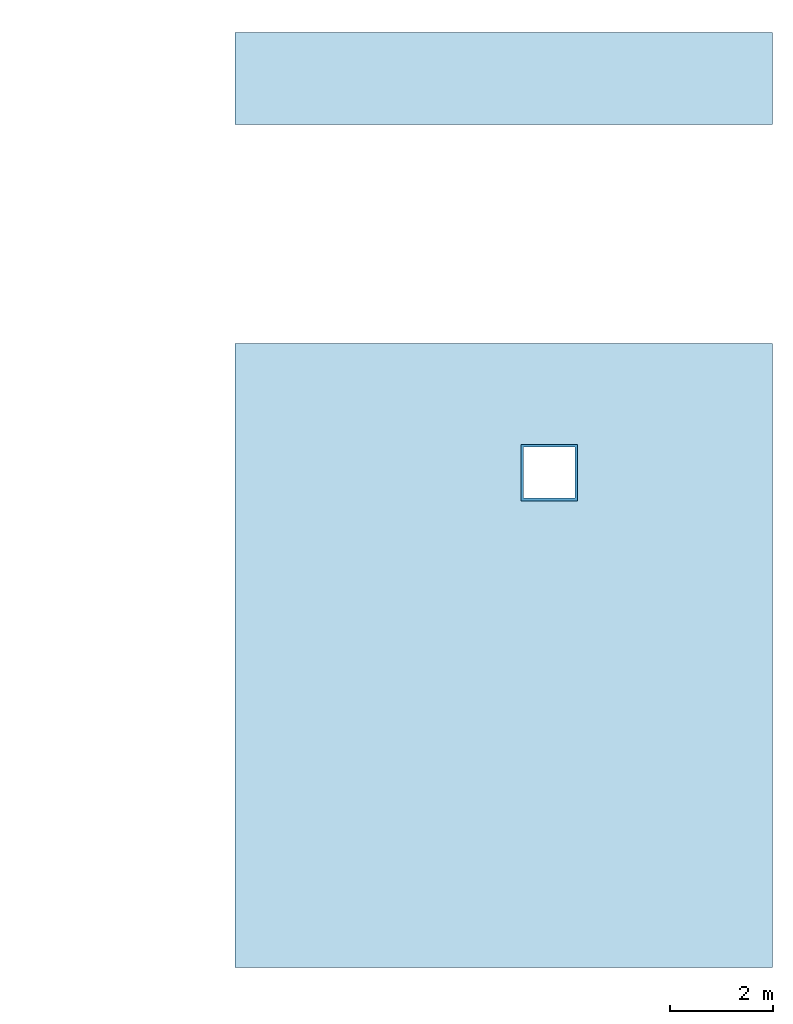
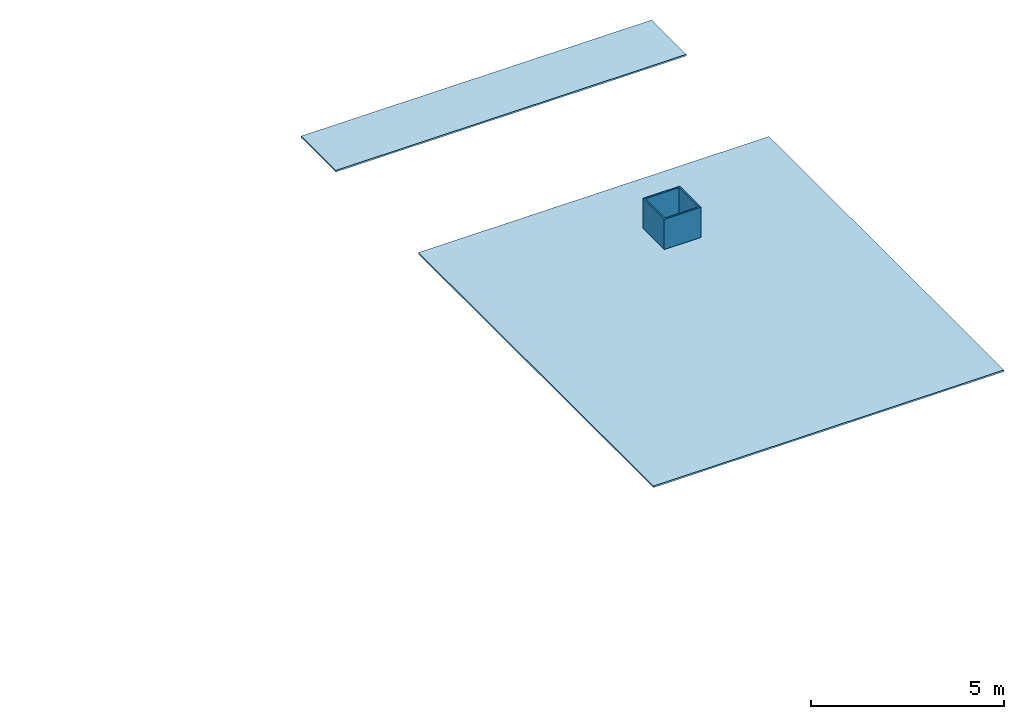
# One storey, part 2 of 8: 3 slabs, 2 openings.
"""IFC2X3 building model written with IfcOpenShell, lengths in metres."""

from ifc_helpers import new_model, entity, si_unit, converted_unit, derived_unit, direction, frame, frame_2d, origin, origin_2d_with_axis, place, context, subcontext, project, spatial, rectangle, extrude, material, layer, layer_set, layer_usage, type_object, element, save


model = new_model("IFC2X3")

# Units and contexts
model_context = context("Model", 3, precision=1e-05, world=origin(), true_north=direction((6.123031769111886e-17, 1.0)))
body_context = subcontext(model_context, "Body", "Model", "MODEL_VIEW")
ifc_project = project(units=[si_unit("LENGTHUNIT", "METRE"), si_unit("AREAUNIT", "SQUARE_METRE"), si_unit("VOLUMEUNIT", "CUBIC_METRE"), converted_unit("PLANEANGLEUNIT", "DEGREE", entity("IfcRatioMeasure", 0.017453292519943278), si_unit("PLANEANGLEUNIT", "RADIAN"), dimensions=[0, 0, 0, 0, 0, 0, 0]), si_unit("MASSUNIT", "GRAM", prefix="KILO"), derived_unit("MASSDENSITYUNIT", [(si_unit("MASSUNIT", "GRAM", prefix="KILO"), 1), (si_unit("LENGTHUNIT", "METRE"), -3)]), derived_unit("MOMENTOFINERTIAUNIT", [(si_unit("LENGTHUNIT", "METRE"), 4)]), si_unit("TIMEUNIT", "SECOND"), si_unit("FREQUENCYUNIT", "HERTZ"), si_unit("THERMODYNAMICTEMPERATUREUNIT", "DEGREE_CELSIUS"), derived_unit("THERMALTRANSMITTANCEUNIT", [(si_unit("MASSUNIT", "GRAM", prefix="KILO"), 1), (si_unit("THERMODYNAMICTEMPERATUREUNIT", "KELVIN"), -1), (si_unit("TIMEUNIT", "SECOND"), -3)]), derived_unit("THERMALCONDUCTANCEUNIT", [(si_unit("MASSUNIT", "GRAM", prefix="KILO"), 1), (si_unit("LENGTHUNIT", "METRE"), 1), (si_unit("THERMODYNAMICTEMPERATUREUNIT", "KELVIN"), -1), (si_unit("TIMEUNIT", "SECOND"), -3)]), derived_unit("VOLUMETRICFLOWRATEUNIT", [(si_unit("LENGTHUNIT", "METRE"), 3), (si_unit("TIMEUNIT", "SECOND"), -1)]), derived_unit("MASSFLOWRATEUNIT", [(si_unit("MASSUNIT", "GRAM", prefix="KILO"), 1), (si_unit("TIMEUNIT", "SECOND"), -1)]), derived_unit("ROTATIONALFREQUENCYUNIT", [(si_unit("TIMEUNIT", "SECOND"), -1)]), si_unit("ELECTRICCURRENTUNIT", "AMPERE"), si_unit("ELECTRICVOLTAGEUNIT", "VOLT"), si_unit("POWERUNIT", "WATT"), si_unit("FORCEUNIT", "NEWTON", prefix="KILO"), si_unit("ILLUMINANCEUNIT", "LUX"), si_unit("LUMINOUSFLUXUNIT", "LUMEN"), si_unit("LUMINOUSINTENSITYUNIT", "CANDELA"), derived_unit("USERDEFINED", [(si_unit("MASSUNIT", "GRAM", prefix="KILO"), -1), (si_unit("LENGTHUNIT", "METRE"), -2), (si_unit("TIMEUNIT", "SECOND"), 3), (si_unit("LUMINOUSFLUXUNIT", "LUMEN"), 1)]), derived_unit("USERDEFINED", [(si_unit("MASSUNIT", "GRAM", prefix="KILO"), 1), (si_unit("LENGTHUNIT", "METRE"), 3), (si_unit("TIMEUNIT", "SECOND"), -3), (si_unit("ELECTRICCURRENTUNIT", "AMPERE"), -2)]), derived_unit("USERDEFINED", [(si_unit("LENGTHUNIT", "METRE"), 2), (si_unit("TIMEUNIT", "SECOND"), -2)]), derived_unit("SOUNDPOWERUNIT", [(si_unit("MASSUNIT", "GRAM", prefix="KILO"), 1), (si_unit("LENGTHUNIT", "METRE"), 2), (si_unit("TIMEUNIT", "SECOND"), -3)]), derived_unit("SOUNDPRESSUREUNIT", [(si_unit("MASSUNIT", "GRAM", prefix="KILO"), 1), (si_unit("LENGTHUNIT", "METRE"), -1), (si_unit("TIMEUNIT", "SECOND"), -2)]), derived_unit("LINEARVELOCITYUNIT", [(si_unit("LENGTHUNIT", "METRE"), 1), (si_unit("TIMEUNIT", "SECOND"), -1)]), si_unit("PRESSUREUNIT", "PASCAL"), derived_unit("USERDEFINED", [(si_unit("LENGTHUNIT", "METRE"), -2), (si_unit("MASSUNIT", "GRAM", prefix="KILO"), 1), (si_unit("TIMEUNIT", "SECOND"), -2)]), derived_unit("LINEARFORCEUNIT", [(si_unit("MASSUNIT", "GRAM", prefix="KILO"), 1), (si_unit("LENGTHUNIT", "METRE"), 1), (si_unit("TIMEUNIT", "SECOND"), -2), (si_unit("LENGTHUNIT", "METRE"), -1)]), derived_unit("PLANARFORCEUNIT", [(si_unit("MASSUNIT", "GRAM", prefix="KILO"), 1), (si_unit("LENGTHUNIT", "METRE"), 1), (si_unit("TIMEUNIT", "SECOND"), -2), (si_unit("LENGTHUNIT", "METRE"), -2)]), derived_unit("SPECIFICHEATCAPACITYUNIT", [(si_unit("LENGTHUNIT", "METRE"), 2), (si_unit("TIMEUNIT", "SECOND"), -2), (si_unit("THERMODYNAMICTEMPERATUREUNIT", "KELVIN"), -1)]), derived_unit("VAPORPERMEABILITYUNIT", [(si_unit("TIMEUNIT", "SECOND"), 1), (si_unit("LENGTHUNIT", "METRE"), -1)]), derived_unit("DYNAMICVISCOSITYUNIT", [(si_unit("MASSUNIT", "GRAM", prefix="KILO"), 1), (si_unit("LENGTHUNIT", "METRE"), -1), (si_unit("TIMEUNIT", "SECOND"), -1)]), derived_unit("THERMALEXPANSIONCOEFFICIENTUNIT", [(si_unit("THERMODYNAMICTEMPERATUREUNIT", "KELVIN"), -1)])], contexts=[model_context])

# Site, building, storey
site_placement = place(None, origin())
site = spatial("IfcSite", under=ifc_project, at=site_placement, Name="Default", CompositionType="ELEMENT")
building_placement = place(site_placement, origin())
building = spatial("IfcBuilding", under=site, at=building_placement, CompositionType="ELEMENT")
storey_placement = place(building_placement, frame((0.0, 0.0, 6.059999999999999)))
storey = spatial("IfcBuildingStorey", under=building, at=storey_placement, Name="TOITURE", CompositionType="ELEMENT", Elevation=6.059999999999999)

# Slab, opening
ifc_material = material(Name="Plâtre - Plaques de plâtre")
ifc_layer_1 = layer(ifc_material, 0.05)
ifc_layer_set_1 = layer_set([ifc_layer_1], Name="Sol:Dalle-005:1730")
ifc_layer_usage_1 = layer_usage(ifc_layer_set_1, "AXIS3", "POSITIVE", 0.0)
slab_type_1 = type_object("IfcSlabType", Name="Sol:Dalle-005:1730", PredefinedType="FLOOR", material=ifc_layer_set_1)
slab_1_placement = place(storey_placement, frame((341.61975228, 7.8062094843, 0.71)))
slab_1 = element("IfcSlab", 1, at=slab_1_placement, inside=storey, type_object=slab_type_1, material=ifc_layer_usage_1, Name="Sol:Dalle-005:1730", ObjectType="Sol:Dalle-005:1730", PredefinedType="FLOOR", context=body_context, shape_type="SweptSolid", body=[
    extrude(rectangle(XDim=10.462000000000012, YDim=12.151000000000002, at=origin_2d_with_axis()), frame((5.2309999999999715, 6.075500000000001, 0.04999999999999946), z_axis=(0.0, 0.0, -1.0), x_axis=(-1.0, 0.0, 0.0)), (0.0, 0.0, 1.0), 0.04999999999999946),
])
opening_1_placement = place(slab_1_placement, frame((6.120999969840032, 9.64100000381, 0.04999999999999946)))
element("IfcOpeningElement", 2, at=opening_1_placement, cuts=slab_1, Name="Sol:Dalle-005:1730:2", ObjectType="Opening", context=body_context, shape_type="SweptSolid", body=[
    extrude(rectangle(XDim=1.1000000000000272, YDim=1.1000000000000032, at=origin_2d_with_axis()), frame((0.0, 0.0, 0.0), z_axis=(0.0, 0.0, -1.0), x_axis=(-1.0, 0.0, 0.0)), (0.0, 0.0, 1.0), 0.04999999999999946),
])

# Slab
slab_2_placement = place(storey_placement, origin())
element("IfcSlab", 3, at=slab_2_placement, inside=storey, type_object=slab_type_1, material=ifc_layer_usage_1, Name="Sol:Dalle-005:1730", ObjectType="Sol:Dalle-005:1730", PredefinedType="FLOOR", context=body_context, shape_type="SweptSolid", body=[
    extrude(rectangle(XDim=1.789999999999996, YDim=10.459999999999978, at=frame_2d((2.1649348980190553e-15, 3.4638958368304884e-14), x_axis=(1.0, 0.0))), frame((346.85075227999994, 25.122209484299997, 0.7599999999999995), z_axis=(0.0, 0.0, -1.0), x_axis=(0.0, 1.0, 0.0)), (0.0, 0.0, 1.0), 0.04999999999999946),
])

# Slab, opening
ifc_layer_2 = layer(ifc_material, 0.9999999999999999)
ifc_layer_set_2 = layer_set([ifc_layer_2], Name="Sol:Dalle-005")
ifc_layer_usage_2 = layer_usage(ifc_layer_set_2, "AXIS3", "POSITIVE", 0.0)
slab_type_2 = type_object("IfcSlabType", Name="Sol:Dalle-005", PredefinedType="FLOOR", material=ifc_layer_set_2)
slab_3_placement = place(storey_placement, frame((347.19075225, 16.8972094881, 0.71)))
slab_3 = element("IfcSlab", 4, at=slab_3_placement, inside=storey, type_object=slab_type_2, material=ifc_layer_usage_2, Name="Sol:Dalle-005", ObjectType="Sol:Dalle-005", PredefinedType="FLOOR", context=body_context, shape_type="SweptSolid", body=[
    extrude(rectangle(XDim=1.1000000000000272, YDim=1.1000000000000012, at=frame_2d((0.0, 0.0), x_axis=(-1.0, 0.0))), frame((0.549999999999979, 0.5500000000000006, 1.0), z_axis=(0.0, 0.0, -1.0), x_axis=(-1.0, 0.0, 0.0)), (0.0, 0.0, 1.0), 1.0),
])
opening_2_placement = place(slab_3_placement, frame((0.549999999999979, 0.5500000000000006, 1.0)))
element("IfcOpeningElement", 5, at=opening_2_placement, cuts=slab_3, Name="Sol:Dalle-005:2", ObjectType="Opening", context=body_context, shape_type="SweptSolid", body=[
    extrude(rectangle(XDim=0.9999999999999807, YDim=1.0, at=origin_2d_with_axis()), frame((0.0, 0.0, 0.0), z_axis=(0.0, 0.0, -1.0), x_axis=(1.0, 0.0, 0.0)), (0.0, 0.0, 1.0), 1.0),
])

save(model, "model.ifc")
